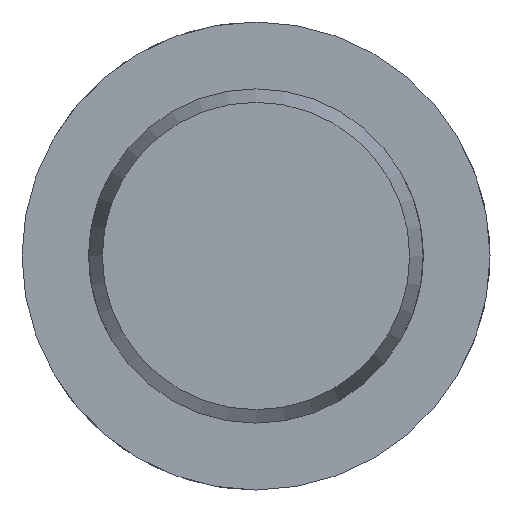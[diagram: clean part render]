
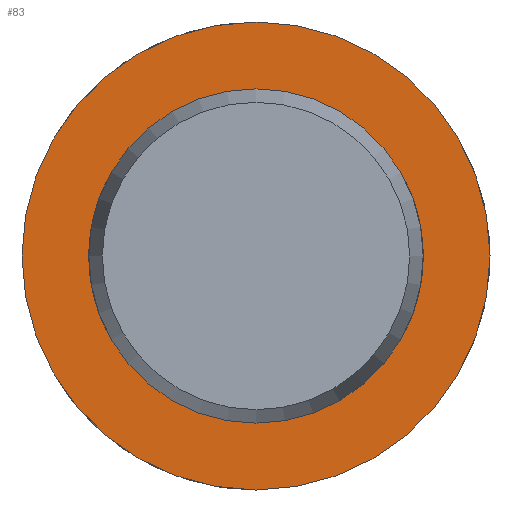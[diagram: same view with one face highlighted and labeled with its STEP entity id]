
A CAD part, left-side view. The second image highlights one B-rep face of the part: STEP entity #83.
In plain terms, the highlighted planar face has unit normal (-1, 0, 0).
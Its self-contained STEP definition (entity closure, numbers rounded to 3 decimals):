
#83 = ADVANCED_FACE( '', ( #128, #129 ), #130, .F. );
#128 = FACE_OUTER_BOUND( '', #204, .T. );
#129 = FACE_BOUND( '', #205, .T. );
#130 = PLANE( '', #206 );
#204 = EDGE_LOOP( '', ( #318 ) );
#205 = EDGE_LOOP( '', ( #319 ) );
#206 = AXIS2_PLACEMENT_3D( '', #320, #321, #322 );
#318 = ORIENTED_EDGE( '', *, *, #481, .F. );
#319 = ORIENTED_EDGE( '', *, *, #471, .T. );
#320 = CARTESIAN_POINT( '', ( 109.6, 5., 0. ) );
#321 = DIRECTION( '', ( 1., 0., 0. ) );
#322 = DIRECTION( '', ( 0., 0., -1. ) );
#471 = EDGE_CURVE( '', #541, #541, #542, .T. );
#481 = EDGE_CURVE( '', #559, #559, #560, .T. );
#541 = VERTEX_POINT( '', #726 );
#542 = CIRCLE( '', #727, 5. );
#559 = VERTEX_POINT( '', #881 );
#560 = CIRCLE( '', #882, 7. );
#726 = CARTESIAN_POINT( '', ( 109.6, 0., -5. ) );
#727 = AXIS2_PLACEMENT_3D( '', #943, #944, #945 );
#881 = CARTESIAN_POINT( '', ( 109.6, 0., -7. ) );
#882 = AXIS2_PLACEMENT_3D( '', #964, #965, #966 );
#943 = CARTESIAN_POINT( '', ( 109.6, 0., 0. ) );
#944 = DIRECTION( '', ( 1., 0., 0. ) );
#945 = DIRECTION( '', ( 0., 0., -1. ) );
#964 = CARTESIAN_POINT( '', ( 109.6, 0., 0. ) );
#965 = DIRECTION( '', ( 1., 0., 0. ) );
#966 = DIRECTION( '', ( 0., 0., -1. ) );
